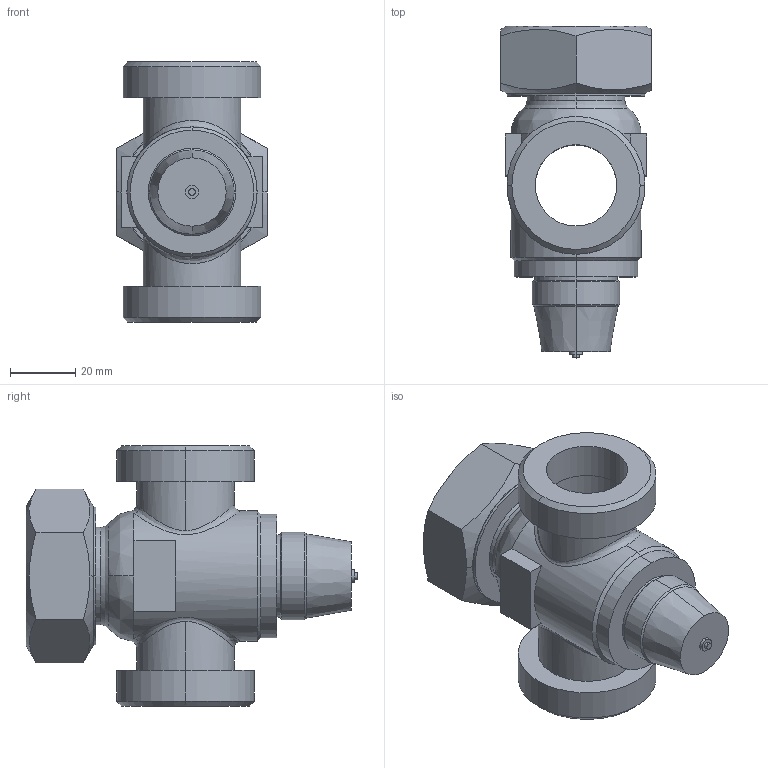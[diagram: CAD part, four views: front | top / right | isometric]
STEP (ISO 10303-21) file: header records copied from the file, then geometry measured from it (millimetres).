
FILE_DESCRIPTION((''),'2;1');
FILE_NAME('000383.dwg.stp','2006-10-04T11:29:00',(''),(''),'Mechanical Desktop 2006','Mechanical Desktop 2006',', , ');
FILE_SCHEMA(('AUTOMOTIVE_DESIGN { 1 2 10303 214 0 1 1 1 }'));
Length unit declared in the file: millimetre
Products named in the file (1): Product
Bounding box: 46.25 x 102 x 80 mm (x, y, z)
Volume: 117080.4 mm3; surface area: 40719.3 mm2
Topology: 10 solids, 10 shells, 99 faces, 213 edges, 135 vertices
Faces by surface type: plane 38, cylinder 34, cone 18, bspline 9
Entity records: 3674 total; most frequent: CARTESIAN_POINT 1472, DIRECTION 466, ORIENTED_EDGE 426, EDGE_CURVE 213, AXIS2_PLACEMENT_3D 194, VERTEX_POINT 135, EDGE_LOOP 108, CIRCLE 103
